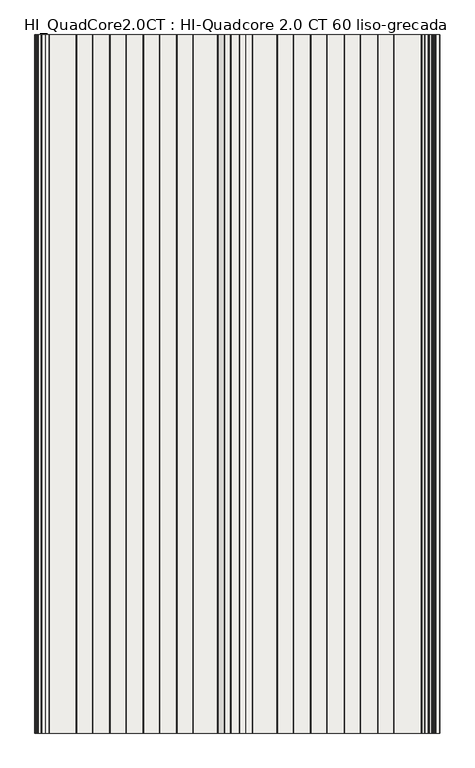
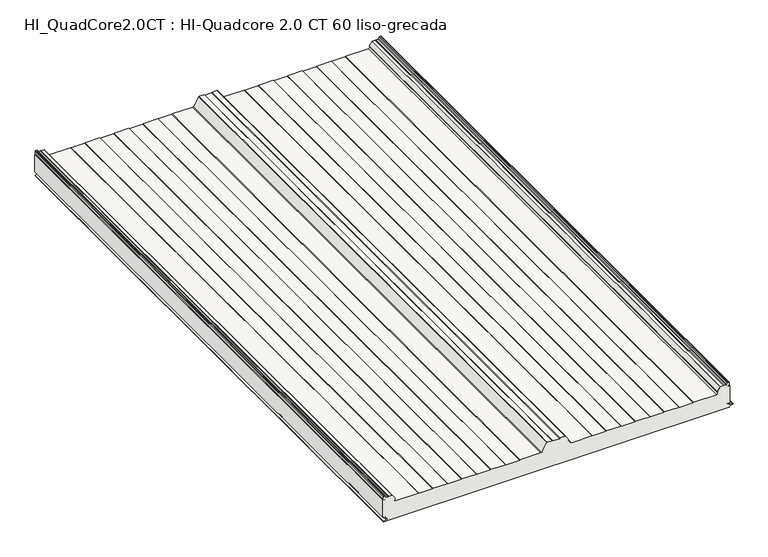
"""IFC4 building model written with IfcOpenShell, lengths in millimetres: slab geometry, HI_QuadCore2.0CT : HI-Quadcore 2.0 CT 60 liso-grecada."""

from ifc_helpers import new_model, si_unit, frame, origin, place, context, project, spatial, polyline, circle_curve, source, transform, mapped, element, save
from ifc_brep_helpers import plane_surface, cylinder_surface, revolved_surface, advanced_brep


def hi_quadcore2_0ct_hi_quadcore_2_0_ct_60_liso_grecada_84c94ab4(model_context):
    return source(origin(), model_context, "Body", "AdvancedBrep", [
        advanced_brep(
        [(5.1475465, 0.0, 75.7425833), (1.3824194, 0.0, 77.9163804), (0.0, 0.0, 77.9163804), (0.0, 0.0, 16.239302), (7.510215, 0.0, 16.239302), (7.510215, 0.0, 15.4391074), (3.6125693, 0.0, 15.4391074), (2.4319301, 0.0, 14.2584682), (3.4276302, 0.0, 13.0866965), (11.8278581, 0.0, 11.7547343), (11.7995989, 0.0, 4.4809044), (1.8467032, 0.0, 2.9844289), (2.0100062, 0.0, 0.8), (1147.9590685, 0.0, 0.8), (1149.3391392, 0.0, 2.1800708), (1152.5664905, 0.0, 5.8294074), (1160.7843221, 0.0, 6.8264698), (1160.7843299, 0.0, 9.4135286), (1150.8450446, 0.0, 10.6192254), (1147.8324398, 0.0, 14.0237344), (1147.2282701, 0.0, 15.44), (1142.7624398, 0.0, 15.44), (1142.7624398, 0.0, 16.239302), (1150.0, 0.0, 16.239302), (1150.0, 0.0, 77.9163804), (1148.8824194, 0.0, 77.9163804), (1145.1172924, 0.0, 75.7425833), (1144.7172924, 0.0, 76.4354036), (1148.5824194, 0.0, 78.6669358), (1148.5824194, 0.0, 88.1), (1147.4824194, 0.0, 89.2), (1143.8888221, 0.0, 89.2), (1142.8725546, 0.0, 88.5209518), (1141.0157992, 0.0, 84.0383476), (1138.8631598, 0.0, 82.6), (1132.1371875, 0.0, 82.6), (1130.4324194, 0.0, 81.8110374), (1128.7276514, 0.0, 82.6), (1119.4004541, 0.0, 82.6), (1118.4939153, 0.0, 82.1230469), (1109.1558806, 0.0, 68.5361221), (1109.356723, 0.0, 67.0692788), (1110.3070878, 0.0, 66.2744554), (1107.4852773, 0.0, 59.2), (1031.3816122, 0.0, 59.2), (1029.6495614, 0.0, 58.2), (984.6152775, 0.0, 58.2), (982.8832267, 0.0, 59.2), (935.3816122, 0.0, 59.2), (933.6495614, 0.0, 58.2), (888.6152775, 0.0, 58.2), (886.8832267, 0.0, 59.2), (839.3816122, 0.0, 59.2), (837.6495614, 0.0, 58.2), (792.6152775, 0.0, 58.2), (790.8832267, 0.0, 59.2), (743.3816122, 0.0, 59.2), (741.6495614, 0.0, 58.2), (696.6152775, 0.0, 58.2), (694.8832267, 0.0, 59.2), (625.9029123, 0.0, 59.2), (623.9344839, 0.0, 60.2833287), (605.9445057, 0.0, 88.6885573), (605.0152048, 0.0, 89.2), (588.8816122, 0.0, 89.2), (586.283536, 0.0, 87.7), (563.9813029, 0.0, 87.7), (561.3832267, 0.0, 89.2), (545.2496341, 0.0, 89.2), (544.3203331, 0.0, 88.6885573), (526.330355, 0.0, 60.2833287), (524.3619266, 0.0, 59.2), (455.3816122, 0.0, 59.2), (453.6495614, 0.0, 58.2), (408.6152775, 0.0, 58.2), (406.8832267, 0.0, 59.2), (359.3816122, 0.0, 59.2), (357.6495614, 0.0, 58.2), (312.6152775, 0.0, 58.2), (310.8832267, 0.0, 59.2), (263.3816122, 0.0, 59.2), (261.6495614, 0.0, 58.2), (216.6152775, 0.0, 58.2), (214.8832267, 0.0, 59.2), (167.3816122, 0.0, 59.2), (165.6495614, 0.0, 58.2), (120.6152775, 0.0, 58.2), (118.8832267, 0.0, 59.2), (42.7795617, 0.0, 59.2), (39.9577511, 0.0, 66.2744555), (40.9081159, 0.0, 67.0692788), (41.1089583, 0.0, 68.5361221), (31.7709236, 0.0, 82.1230469), (30.8643848, 0.0, 82.6), (21.5371875, 0.0, 82.6), (19.8324194, 0.0, 81.8110374), (18.1276514, 0.0, 82.6), (11.4016791, 0.0, 82.6), (9.2490397, 0.0, 84.0383476), (7.3922843, 0.0, 88.5209518), (6.3760168, 0.0, 89.2), (2.7824194, 0.0, 89.2), (1.6824194, 0.0, 88.1), (1.6824194, 0.0, 78.6669358), (5.5475465, 0.0, 76.4354036), (5.1475465, 2000.0, 75.7425833), (5.5475465, 2000.0, 76.4354036), (1.6824194, 2000.0, 78.6669358), (1.6824194, 2000.0, 88.1), (2.7824194, 2000.0, 89.2), (6.3760168, 2000.0, 89.2), (7.3922843, 2000.0, 88.5209518), (9.2490397, 2000.0, 84.0383476), (11.4016791, 2000.0, 82.6), (18.1276514, 2000.0, 82.6), (19.8324194, 2000.0, 81.8110374), (21.5371875, 2000.0, 82.6), (30.8643848, 2000.0, 82.6), (31.7709236, 2000.0, 82.1230469), (41.1089583, 2000.0, 68.5361221), (40.9081159, 2000.0, 67.0692788), (39.9577511, 2000.0, 66.2744555), (42.7795617, 2000.0, 59.2), (118.8832267, 2000.0, 59.2), (120.6152775, 2000.0, 58.2), (165.6495614, 2000.0, 58.2), (167.3816122, 2000.0, 59.2), (214.8832267, 2000.0, 59.2), (216.6152775, 2000.0, 58.2), (261.6495614, 2000.0, 58.2), (263.3816122, 2000.0, 59.2), (310.8832267, 2000.0, 59.2), (312.6152775, 2000.0, 58.2), (357.6495614, 2000.0, 58.2), (359.3816122, 2000.0, 59.2), (406.8832267, 2000.0, 59.2), (408.6152775, 2000.0, 58.2), (453.6495614, 2000.0, 58.2), (455.3816122, 2000.0, 59.2), (524.3619266, 2000.0, 59.2), (526.330355, 2000.0, 60.2833287), (544.3203331, 2000.0, 88.6885573), (545.2496341, 2000.0, 89.2), (561.3832267, 2000.0, 89.2), (563.9813029, 2000.0, 87.7), (586.283536, 2000.0, 87.7), (588.8816122, 2000.0, 89.2), (605.0152048, 2000.0, 89.2), (605.9445057, 2000.0, 88.6885573), (623.9344839, 2000.0, 60.2833287), (625.9029123, 2000.0, 59.2), (694.8832267, 2000.0, 59.2), (696.6152775, 2000.0, 58.2), (741.6495614, 2000.0, 58.2), (743.3816122, 2000.0, 59.2), (790.8832267, 2000.0, 59.2), (792.6152775, 2000.0, 58.2), (837.6495614, 2000.0, 58.2), (839.3816122, 2000.0, 59.2), (886.8832267, 2000.0, 59.2), (888.6152775, 2000.0, 58.2), (933.6495614, 2000.0, 58.2), (935.3816122, 2000.0, 59.2), (982.8832267, 2000.0, 59.2), (984.6152775, 2000.0, 58.2), (1029.6495614, 2000.0, 58.2), (1031.3816122, 2000.0, 59.2), (1107.4852773, 2000.0, 59.2), (1110.3070878, 2000.0, 66.2744554), (1109.356723, 2000.0, 67.0692788), (1109.1558806, 2000.0, 68.5361221), (1118.4939153, 2000.0, 82.1230469), (1119.4004541, 2000.0, 82.6), (1128.7276514, 2000.0, 82.6), (1130.4324194, 2000.0, 81.8110374), (1132.1371875, 2000.0, 82.6), (1138.8631598, 2000.0, 82.6), (1141.0157992, 2000.0, 84.0383476), (1142.8725546, 2000.0, 88.5209518), (1143.8888221, 2000.0, 89.2), (1147.4824194, 2000.0, 89.2), (1148.5824194, 2000.0, 88.1), (1148.5824194, 2000.0, 78.6669358), (1144.7172924, 2000.0, 76.4354036), (1145.1172924, 2000.0, 75.7425833), (1148.8824194, 2000.0, 77.9163804), (1150.0, 2000.0, 77.9163804), (1150.0, 2000.0, 16.239302), (1142.7624398, 2000.0, 16.239302), (1142.7624398, 2000.0, 15.44), (1147.2282701, 2000.0, 15.44), (1147.8324398, 2000.0, 14.0237344), (1150.8450446, 2000.0, 10.6192254), (1160.7843299, 2000.0, 9.4135286), (1160.7843221, 2000.0, 6.8264698), (1152.5664905, 2000.0, 5.8294074), (1149.3391392, 2000.0, 2.1800708), (1147.9590685, 2000.0, 0.8), (2.0100062, 2000.0, 0.8), (1.8467032, 2000.0, 2.9844289), (11.7995989, 2000.0, 4.4809044), (11.8278581, 2000.0, 11.7547343), (3.4273037, 2000.0, 13.0846342), (2.4319301, 2000.0, 14.2584682), (3.6125693, 2000.0, 15.4391074), (7.510215, 2000.0, 15.4391074), (7.510215, 2000.0, 16.239302), (0.0, 2000.0, 16.239302), (0.0, 2000.0, 77.9163804), (1.3824194, 2000.0, 77.9163804)],
        [
            (0, 1),
            (1, 2),
            (2, 3),
            (3, 4),
            (4, 5),
            (5, 6),
            (6, 7, circle_curve(frame((3.6125693, 0.0, 14.2584682), z_axis=(0.0, -1.0, 0.0), x_axis=(1.0, 0.0, 0.0)), 1.1806391)),
            (7, 8, circle_curve(frame((3.6121809, 0.0, 14.2524448), z_axis=(0.0, -1.0, 0.0), x_axis=(1.0, 0.0, 0.0)), 1.1802661)),
            (8, 9),
            (9, 10, circle_curve(frame((11.2524398, 0.0, 8.12), z_axis=(0.0, 1.0, 0.0), x_axis=(1.0, 0.0, 0.0)), 3.68)),
            (10, 11),
            (11, 12, circle_curve(frame((2.0100062, 0.0, 1.8983185), z_axis=(0.0, -1.0, 0.0), x_axis=(1.0, 0.0, 0.0)), 1.0983185)),
            (12, 13),
            (13, 14, circle_curve(frame((1147.9590685, 0.0, 2.1800708), z_axis=(0.0, -1.0, 0.0), x_axis=(1.0, 0.0, 0.0)), 1.3800708)),
            (14, 15, circle_curve(frame((1153.0160638, 0.0, 2.1800708), z_axis=(0.0, 1.0, 0.0), x_axis=(1.0, 0.0, 0.0)), 3.6769246)),
            (15, 16),
            (16, 17, circle_curve(frame((1160.5224398, 0.0, 8.12), z_axis=(0.0, -1.0, 0.0), x_axis=(1.0, 0.0, 0.0)), 1.3197737)),
            (17, 18),
            (18, 19, circle_curve(frame((1151.2624398, 0.0, 14.0237344), z_axis=(0.0, 1.0, 0.0), x_axis=(1.0, 0.0, 0.0)), 3.43)),
            (19, 20, circle_curve(frame((1145.8703839, 0.0, 14.0237344), z_axis=(0.0, -1.0, 0.0), x_axis=(1.0, 0.0, 0.0)), 1.9620559)),
            (20, 21),
            (21, 22),
            (22, 23),
            (23, 24),
            (24, 25),
            (25, 26),
            (26, 27),
            (27, 28),
            (28, 29),
            (29, 30, circle_curve(frame((1147.4824194, 0.0, 88.1), z_axis=(0.0, -1.0, 0.0), x_axis=(1.0, 0.0, 0.0)), 1.1)),
            (30, 31),
            (31, 32, circle_curve(frame((1143.8888221, 0.0, 88.1), z_axis=(0.0, -1.0, 0.0), x_axis=(1.0, 0.0, 0.0)), 1.1)),
            (32, 33),
            (33, 34, circle_curve(frame((1138.8631598, 0.0, 84.93), z_axis=(0.0, 1.0, 0.0), x_axis=(1.0, 0.0, 0.0)), 2.33)),
            (34, 35),
            (35, 36),
            (36, 37),
            (37, 38),
            (38, 39, circle_curve(frame((1119.4004541, 0.0, 81.5), z_axis=(0.0, -1.0, 0.0), x_axis=(1.0, 0.0, 0.0)), 1.1)),
            (39, 40),
            (40, 41, circle_curve(frame((1110.0624194, 0.0, 67.9130753), z_axis=(0.0, -1.0, 0.0), x_axis=(1.0, 0.0, 0.0)), 1.1)),
            (41, 42),
            (42, 43, circle_curve(frame((1107.4852773, 0.0, 63.3), z_axis=(0.0, 1.0, 0.0), x_axis=(1.0, 0.0, 0.0)), 4.1)),
            (43, 44),
            (44, 45),
            (45, 46),
            (46, 47),
            (47, 48),
            (48, 49),
            (49, 50),
            (50, 51),
            (51, 52),
            (52, 53),
            (53, 54),
            (54, 55),
            (55, 56),
            (56, 57),
            (57, 58),
            (58, 59),
            (59, 60),
            (60, 61, circle_curve(frame((625.9029123, 0.0, 61.53), z_axis=(0.0, 1.0, 0.0), x_axis=(1.0, 0.0, 0.0)), 2.33)),
            (61, 62),
            (62, 63, circle_curve(frame((605.0152048, 0.0, 88.1), z_axis=(0.0, -1.0, 0.0), x_axis=(1.0, 0.0, 0.0)), 1.1)),
            (63, 64),
            (64, 65),
            (65, 66),
            (66, 67),
            (67, 68),
            (68, 69, circle_curve(frame((545.2496341, 0.0, 88.1), z_axis=(0.0, -1.0, 0.0), x_axis=(1.0, 0.0, 0.0)), 1.1)),
            (69, 70),
            (70, 71, circle_curve(frame((524.3619266, 0.0, 61.53), z_axis=(0.0, 1.0, 0.0), x_axis=(1.0, 0.0, 0.0)), 2.33)),
            (71, 72),
            (72, 73),
            (73, 74),
            (74, 75),
            (75, 76),
            (76, 77),
            (77, 78),
            (78, 79),
            (79, 80),
            (80, 81),
            (81, 82),
            (82, 83),
            (83, 84),
            (84, 85),
            (85, 86),
            (86, 87),
            (87, 88),
            (88, 89, circle_curve(frame((42.7795617, 0.0, 63.3), z_axis=(0.0, 1.0, 0.0), x_axis=(1.0, 0.0, 0.0)), 4.1)),
            (89, 90),
            (90, 91, circle_curve(frame((40.2024195, 0.0, 67.9130752), z_axis=(0.0, -1.0, 0.0), x_axis=(1.0, 0.0, 0.0)), 1.1)),
            (91, 92),
            (92, 93, circle_curve(frame((30.8643848, 0.0, 81.5), z_axis=(0.0, -1.0, 0.0), x_axis=(1.0, 0.0, 0.0)), 1.1)),
            (93, 94),
            (94, 95),
            (95, 96),
            (96, 97),
            (97, 98, circle_curve(frame((11.4016791, 0.0, 84.93), z_axis=(0.0, 1.0, 0.0), x_axis=(1.0, 0.0, 0.0)), 2.33)),
            (98, 99),
            (99, 100, circle_curve(frame((6.3760168, 0.0, 88.1), z_axis=(0.0, -1.0, 0.0), x_axis=(1.0, 0.0, 0.0)), 1.1)),
            (100, 101),
            (101, 102, circle_curve(frame((2.7824194, 0.0, 88.1), z_axis=(0.0, -1.0, 0.0), x_axis=(1.0, 0.0, 0.0)), 1.1)),
            (102, 103),
            (103, 104),
            (104, 0),
            (105, 106),
            (106, 107),
            (107, 108),
            (108, 109, circle_curve(frame((2.7824194, 2000.0, 88.1), z_axis=(0.0, 1.0, 0.0), x_axis=(1.0, 0.0, 0.0)), 1.1)),
            (109, 110),
            (110, 111, circle_curve(frame((6.3760168, 2000.0, 88.1), z_axis=(0.0, 1.0, 0.0), x_axis=(1.0, 0.0, 0.0)), 1.1)),
            (111, 112),
            (112, 113, circle_curve(frame((11.4016791, 2000.0, 84.93), z_axis=(0.0, -1.0, 0.0), x_axis=(1.0, 0.0, 0.0)), 2.33)),
            (113, 114),
            (114, 115),
            (115, 116),
            (116, 117),
            (117, 118, circle_curve(frame((30.8643848, 2000.0, 81.5), z_axis=(0.0, 1.0, 0.0), x_axis=(1.0, 0.0, 0.0)), 1.1)),
            (118, 119),
            (119, 120, circle_curve(frame((40.2024195, 2000.0, 67.9130752), z_axis=(0.0, 1.0, 0.0), x_axis=(1.0, 0.0, 0.0)), 1.1)),
            (120, 121),
            (121, 122, circle_curve(frame((42.7795617, 2000.0, 63.3), z_axis=(0.0, -1.0, 0.0), x_axis=(1.0, 0.0, 0.0)), 4.1)),
            (122, 123),
            (123, 124),
            (124, 125),
            (125, 126),
            (126, 127),
            (127, 128),
            (128, 129),
            (129, 130),
            (130, 131),
            (131, 132),
            (132, 133),
            (133, 134),
            (134, 135),
            (135, 136),
            (136, 137),
            (137, 138),
            (138, 139),
            (139, 140, circle_curve(frame((524.3619266, 2000.0, 61.53), z_axis=(0.0, -1.0, 0.0), x_axis=(1.0, 0.0, 0.0)), 2.33)),
            (140, 141),
            (141, 142, circle_curve(frame((545.2496341, 2000.0, 88.1), z_axis=(0.0, 1.0, 0.0), x_axis=(1.0, 0.0, 0.0)), 1.1)),
            (142, 143),
            (143, 144),
            (144, 145),
            (145, 146),
            (146, 147),
            (147, 148, circle_curve(frame((605.0152048, 2000.0, 88.1), z_axis=(0.0, 1.0, 0.0), x_axis=(1.0, 0.0, 0.0)), 1.1)),
            (148, 149),
            (149, 150, circle_curve(frame((625.9029123, 2000.0, 61.53), z_axis=(0.0, -1.0, 0.0), x_axis=(1.0, 0.0, 0.0)), 2.33)),
            (150, 151),
            (151, 152),
            (152, 153),
            (153, 154),
            (154, 155),
            (155, 156),
            (156, 157),
            (157, 158),
            (158, 159),
            (159, 160),
            (160, 161),
            (161, 162),
            (162, 163),
            (163, 164),
            (164, 165),
            (165, 166),
            (166, 167),
            (167, 168, circle_curve(frame((1107.4852773, 2000.0, 63.3), z_axis=(0.0, -1.0, 0.0), x_axis=(1.0, 0.0, 0.0)), 4.1)),
            (168, 169),
            (169, 170, circle_curve(frame((1110.0624194, 2000.0, 67.9130753), z_axis=(0.0, 1.0, 0.0), x_axis=(1.0, 0.0, 0.0)), 1.1)),
            (170, 171),
            (171, 172, circle_curve(frame((1119.4004541, 2000.0, 81.5), z_axis=(0.0, 1.0, 0.0), x_axis=(1.0, 0.0, 0.0)), 1.1)),
            (172, 173),
            (173, 174),
            (174, 175),
            (175, 176),
            (176, 177, circle_curve(frame((1138.8631598, 2000.0, 84.93), z_axis=(0.0, -1.0, 0.0), x_axis=(1.0, 0.0, 0.0)), 2.33)),
            (177, 178),
            (178, 179, circle_curve(frame((1143.8888221, 2000.0, 88.1), z_axis=(0.0, 1.0, 0.0), x_axis=(1.0, 0.0, 0.0)), 1.1)),
            (179, 180),
            (180, 181, circle_curve(frame((1147.4824194, 2000.0, 88.1), z_axis=(0.0, 1.0, 0.0), x_axis=(1.0, 0.0, 0.0)), 1.1)),
            (181, 182),
            (182, 183),
            (183, 184),
            (184, 185),
            (185, 186),
            (186, 187),
            (187, 188),
            (188, 189),
            (189, 190),
            (190, 191, circle_curve(frame((1145.8703839, 2000.0, 14.0237344), z_axis=(0.0, 1.0, 0.0), x_axis=(1.0, 0.0, 0.0)), 1.9620559)),
            (191, 192, circle_curve(frame((1151.2624398, 2000.0, 14.0237344), z_axis=(0.0, -1.0, 0.0), x_axis=(1.0, 0.0, 0.0)), 3.43)),
            (192, 193),
            (193, 194, circle_curve(frame((1160.5224398, 2000.0, 8.12), z_axis=(0.0, 1.0, 0.0), x_axis=(1.0, 0.0, 0.0)), 1.3197737)),
            (194, 195),
            (195, 196, circle_curve(frame((1153.0160638, 2000.0, 2.1800708), z_axis=(0.0, -1.0, 0.0), x_axis=(1.0, 0.0, 0.0)), 3.6769246)),
            (196, 197, circle_curve(frame((1147.9590685, 2000.0, 2.1800708), z_axis=(0.0, 1.0, 0.0), x_axis=(1.0, 0.0, 0.0)), 1.3800708)),
            (197, 198),
            (198, 199, circle_curve(frame((2.0100062, 2000.0, 1.8983185), z_axis=(0.0, 1.0, 0.0), x_axis=(1.0, 0.0, 0.0)), 1.0983185)),
            (199, 200),
            (200, 201, circle_curve(frame((11.2524398, 2000.0, 8.12), z_axis=(0.0, -1.0, 0.0), x_axis=(1.0, 0.0, 0.0)), 3.68)),
            (201, 202),
            (202, 203, circle_curve(frame((3.6121809, 2000.0, 14.2524448), z_axis=(0.0, 1.0, 0.0), x_axis=(1.0, 0.0, 0.0)), 1.1802661)),
            (203, 204, circle_curve(frame((3.6125693, 2000.0, 14.2584682), z_axis=(0.0, 1.0, 0.0), x_axis=(1.0, 0.0, 0.0)), 1.1806391)),
            (204, 205),
            (205, 206),
            (206, 207),
            (207, 208),
            (208, 209),
            (209, 105),
            (0, 105),
            (209, 1),
            (208, 2),
            (207, 3),
            (186, 24),
            (23, 187),
            (185, 25),
            (184, 26),
            (183, 27),
            (182, 28),
            (181, 29),
            (180, 30),
            (179, 31),
            (178, 32),
            (177, 33),
            (176, 34),
            (175, 35),
            (174, 36),
            (173, 37),
            (172, 38),
            (171, 39),
            (170, 40),
            (169, 41),
            (168, 42),
            (167, 43),
            (166, 44),
            (165, 45),
            (164, 46),
            (163, 47),
            (162, 48),
            (161, 49),
            (160, 50),
            (159, 51),
            (158, 52),
            (157, 53),
            (156, 54),
            (155, 55),
            (154, 56),
            (153, 57),
            (152, 58),
            (151, 59),
            (150, 60),
            (149, 61),
            (148, 62),
            (147, 63),
            (146, 64),
            (145, 65),
            (144, 66),
            (143, 67),
            (142, 68),
            (141, 69),
            (140, 70),
            (139, 71),
            (138, 72),
            (137, 73),
            (136, 74),
            (135, 75),
            (134, 76),
            (133, 77),
            (132, 78),
            (131, 79),
            (130, 80),
            (129, 81),
            (128, 82),
            (127, 83),
            (126, 84),
            (125, 85),
            (124, 86),
            (123, 87),
            (122, 88),
            (121, 89),
            (120, 90),
            (119, 91),
            (118, 92),
            (117, 93),
            (116, 94),
            (115, 95),
            (114, 96),
            (113, 97),
            (112, 98),
            (111, 99),
            (110, 100),
            (109, 101),
            (108, 102),
            (107, 103),
            (106, 104),
            (22, 188),
            (206, 4),
            (205, 5),
            (204, 6),
            (203, 7),
            (202, 8),
            (201, 9),
            (200, 10),
            (199, 11),
            (198, 12),
            (197, 13),
            (196, 14),
            (195, 15),
            (194, 16),
            (193, 17),
            (192, 18),
            (191, 19),
            (190, 20),
            (189, 21),
        ],
        [
            plane_surface(frame((1.3824194, 0.0, 77.9163804), z_axis=(0.0, -1.0, 0.0), x_axis=(-0.866025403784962, 0.0, 0.4999999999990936))),
            plane_surface(frame((1.3824194, 2000.0, 77.9163804), z_axis=(0.0, 1.0, 0.0), x_axis=(0.866025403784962, 0.0, -0.4999999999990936))),
            plane_surface(frame((5.1475465, 0.0, 75.7425833), z_axis=(0.4999999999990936, 0.0, 0.866025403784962), x_axis=(0.0, 1.0, 0.0))),
            plane_surface(frame((1.3824194, 0.0, 77.9163804), z_axis=(0.0, 0.0, 1.0), x_axis=(0.0, 1.0, 0.0))),
            plane_surface(frame((0.0, 0.0, 77.9163804), z_axis=(-1.0, 0.0, 0.0), x_axis=(0.0, 1.0, 0.0))),
            plane_surface(frame((1150.0, 0.0, 50.0), z_axis=(1.0, 0.0, 0.0), x_axis=(0.0, 1.0, 0.0))),
            plane_surface(frame((1150.0, 0.0, 77.9163804), z_axis=(0.0, 0.0, 1.0), x_axis=(0.0, 1.0, 0.0))),
            plane_surface(frame((1148.8824194, 0.0, 77.9163804), z_axis=(-0.4999999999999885, 0.0, 0.8660254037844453), x_axis=(0.0, 1.0, 0.0))),
            plane_surface(frame((1145.1172924, 0.0, 75.7425833), z_axis=(0.8660254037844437, 0.0, 0.49999999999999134), x_axis=(0.0, 1.0, 0.0))),
            plane_surface(frame((1144.7172924, 0.0, 76.4354036), z_axis=(0.4999999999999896, 0.0, -0.8660254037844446), x_axis=(0.0, 1.0, 0.0))),
            plane_surface(frame((1148.5824194, 0.0, 78.6669358), z_axis=(1.0, 0.0, 0.0), x_axis=(0.0, 1.0, 0.0))),
            cylinder_surface(frame((1147.4824194, 2000.0, 88.1), z_axis=(0.0, -1.0, 0.0), x_axis=(1.0, 0.0, 0.0)), 1.1),
            plane_surface(frame((1147.4824194, 0.0, 89.2), z_axis=(0.0, 0.0, 1.0), x_axis=(0.0, 1.0, 0.0))),
            cylinder_surface(frame((1143.8888221, 2000.0, 88.1), z_axis=(0.0, -1.0, 0.0), x_axis=(1.0, 0.0, 0.0)), 1.1),
            plane_surface(frame((1142.8725546, 0.0, 88.5209518), z_axis=(-0.9238795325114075, 0.0, 0.3826834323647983), x_axis=(0.0, 1.0, 0.0))),
            revolved_surface(polyline([(1141.1931597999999, 2000.0, 84.93), (1141.1931597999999, 0.0, 84.93)]), (1138.8631598, 2000.0, 84.93), (0.0, 1.0, 0.0)),
            plane_surface(frame((1138.8631598, 0.0, 82.6), z_axis=(0.0, 0.0, 1.0), x_axis=(0.0, 1.0, 0.0))),
            plane_surface(frame((1132.1371875, 0.0, 82.6), z_axis=(-0.4199999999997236, 0.0, 0.9075241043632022), x_axis=(0.0, 1.0, 0.0))),
            plane_surface(frame((1130.4324194, 0.0, 81.8110374), z_axis=(0.42000000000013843, 0.0, 0.9075241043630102), x_axis=(0.0, 1.0, 0.0))),
            plane_surface(frame((1128.7276514, 0.0, 82.6), z_axis=(0.0, 0.0, 1.0), x_axis=(0.0, 1.0, 0.0))),
            cylinder_surface(frame((1119.4004541, 2000.0, 81.5), z_axis=(0.0, -1.0, 0.0), x_axis=(1.0, 0.0, 0.0)), 1.1),
            plane_surface(frame((1118.4939153, 0.0, 82.1230469), z_axis=(-0.824126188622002, 0.0, 0.5664062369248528), x_axis=(0.0, 1.0, 0.0))),
            cylinder_surface(frame((1110.0624194, 2000.0, 67.9130753), z_axis=(0.0, -1.0, 0.0), x_axis=(1.0, 0.0, 0.0)), 1.1),
            plane_surface(frame((1109.356723, 0.0, 67.0692788), z_axis=(-0.6415422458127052, 0.0, -0.7670877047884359), x_axis=(0.0, 1.0, 0.0))),
            revolved_surface(polyline([(1111.5852773, 2000.0, 63.3), (1111.5852773, 0.0, 63.3)]), (1107.4852773, 2000.0, 63.3), (0.0, 1.0, 0.0)),
            plane_surface(frame((1107.4852773, 0.0, 59.2), z_axis=(0.0, 0.0, 1.0), x_axis=(0.0, 1.0, 0.0))),
            plane_surface(frame((1031.3816122, 0.0, 59.2), z_axis=(-0.4999999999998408, 0.0, 0.8660254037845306), x_axis=(0.0, 1.0, 0.0))),
            plane_surface(frame((1029.6495614, 0.0, 58.2), z_axis=(0.0, 0.0, 1.0), x_axis=(0.0, 1.0, 0.0))),
            plane_surface(frame((984.6152775, 0.0, 58.2), z_axis=(0.4999999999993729, 0.0, 0.8660254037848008), x_axis=(0.0, 1.0, 0.0))),
            plane_surface(frame((982.8832267, 0.0, 59.2), z_axis=(0.0, 0.0, 1.0), x_axis=(0.0, 1.0, 0.0))),
            plane_surface(frame((935.3816122, 0.0, 59.2), z_axis=(-0.49999999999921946, 0.0, 0.8660254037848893), x_axis=(0.0, 1.0, 0.0))),
            plane_surface(frame((933.6495614, 0.0, 58.2), z_axis=(0.0, 0.0, 1.0), x_axis=(0.0, 1.0, 0.0))),
            plane_surface(frame((888.6152775, 0.0, 58.2), z_axis=(0.4999999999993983, 0.0, 0.8660254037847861), x_axis=(0.0, 1.0, 0.0))),
            plane_surface(frame((886.8832267, 0.0, 59.2), z_axis=(0.0, 0.0, 1.0), x_axis=(0.0, 1.0, 0.0))),
            plane_surface(frame((839.3816122, 0.0, 59.2), z_axis=(-0.49999999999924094, 0.0, 0.866025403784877), x_axis=(0.0, 1.0, 0.0))),
            plane_surface(frame((837.6495614, 0.0, 58.2), z_axis=(0.0, 0.0, 1.0), x_axis=(0.0, 1.0, 0.0))),
            plane_surface(frame((792.6152775, 0.0, 58.2), z_axis=(0.49999999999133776, 0.0, 0.8660254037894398), x_axis=(0.0, 1.0, 0.0))),
            plane_surface(frame((790.8832267, 0.0, 59.2), z_axis=(0.0, 0.0, 1.0), x_axis=(0.0, 1.0, 0.0))),
            plane_surface(frame((743.3816122, 0.0, 59.2), z_axis=(-0.500000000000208, 0.0, 0.8660254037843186), x_axis=(0.0, 1.0, 0.0))),
            plane_surface(frame((741.6495614, 0.0, 58.2), z_axis=(0.0, 0.0, 1.0), x_axis=(0.0, 1.0, 0.0))),
            plane_surface(frame((696.6152775, 0.0, 58.2), z_axis=(0.5000000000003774, 0.0, 0.8660254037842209), x_axis=(0.0, 1.0, 0.0))),
            plane_surface(frame((694.8832267, 0.0, 59.2), z_axis=(0.0, 0.0, 1.0), x_axis=(0.0, 1.0, 0.0))),
            revolved_surface(polyline([(628.2329123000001, 2000.0, 61.53), (628.2329123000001, 0.0, 61.53)]), (625.9029123, 2000.0, 61.53), (0.0, 1.0, 0.0)),
            plane_surface(frame((623.9344839, 0.0, 60.2833287), z_axis=(0.8448190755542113, 0.0, 0.535052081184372), x_axis=(0.0, 1.0, 0.0))),
            cylinder_surface(frame((605.0152048, 2000.0, 88.1), z_axis=(0.0, -1.0, 0.0), x_axis=(1.0, 0.0, 0.0)), 1.1),
            plane_surface(frame((605.0152048, 0.0, 89.2), z_axis=(0.0, 0.0, 1.0), x_axis=(0.0, 1.0, 0.0))),
            plane_surface(frame((588.8816122, 0.0, 89.2), z_axis=(-0.4999999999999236, 0.0, 0.8660254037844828), x_axis=(0.0, 1.0, 0.0))),
            plane_surface(frame((586.283536, 0.0, 87.7), z_axis=(0.0, 0.0, 1.0), x_axis=(0.0, 1.0, 0.0))),
            plane_surface(frame((563.9813029, 0.0, 87.7), z_axis=(0.5000000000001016, 0.0, 0.86602540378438), x_axis=(0.0, 1.0, 0.0))),
            plane_surface(frame((561.3832267, 0.0, 89.2), z_axis=(0.0, 0.0, 1.0), x_axis=(0.0, 1.0, 0.0))),
            cylinder_surface(frame((545.2496341, 2000.0, 88.1), z_axis=(0.0, -1.0, 0.0), x_axis=(1.0, 0.0, 0.0)), 1.1),
            plane_surface(frame((544.3203331, 0.0, 88.6885573), z_axis=(-0.8448190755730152, 0.0, 0.5350520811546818), x_axis=(0.0, 1.0, 0.0))),
            revolved_surface(polyline([(526.6919266, 2000.0, 61.53), (526.6919266, 0.0, 61.53)]), (524.3619266, 2000.0, 61.53), (0.0, 1.0, 0.0)),
            plane_surface(frame((524.3619266, 0.0, 59.2), z_axis=(0.0, 0.0, 1.0), x_axis=(0.0, 1.0, 0.0))),
            plane_surface(frame((455.3816122, 0.0, 59.2), z_axis=(-0.5000000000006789, 0.0, 0.8660254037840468), x_axis=(0.0, 1.0, 0.0))),
            plane_surface(frame((453.6495614, 0.0, 58.2), z_axis=(0.0, 0.0, 1.0), x_axis=(0.0, 1.0, 0.0))),
            plane_surface(frame((408.6152775, 0.0, 58.2), z_axis=(0.4999999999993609, 0.0, 0.8660254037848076), x_axis=(0.0, 1.0, 0.0))),
            plane_surface(frame((406.8832267, 0.0, 59.2), z_axis=(0.0, 0.0, 1.0), x_axis=(0.0, 1.0, 0.0))),
            plane_surface(frame((359.3816122, 0.0, 59.2), z_axis=(-0.5000000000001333, 0.0, 0.8660254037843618), x_axis=(0.0, 1.0, 0.0))),
            plane_surface(frame((357.6495614, 0.0, 58.2), z_axis=(0.0, 0.0, 1.0), x_axis=(0.0, 1.0, 0.0))),
            plane_surface(frame((312.6152775, 0.0, 58.2), z_axis=(0.499999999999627, 0.0, 0.8660254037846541), x_axis=(0.0, 1.0, 0.0))),
            plane_surface(frame((310.8832267, 0.0, 59.2), z_axis=(0.0, 0.0, 1.0), x_axis=(0.0, 1.0, 0.0))),
            plane_surface(frame((263.3816122, 0.0, 59.2), z_axis=(-0.4999999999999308, 0.0, 0.8660254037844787), x_axis=(0.0, 1.0, 0.0))),
            plane_surface(frame((261.6495614, 0.0, 58.2), z_axis=(0.0, 0.0, 1.0), x_axis=(0.0, 1.0, 0.0))),
            plane_surface(frame((216.6152775, 0.0, 58.2), z_axis=(0.5000000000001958, 0.0, 0.8660254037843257), x_axis=(0.0, 1.0, 0.0))),
            plane_surface(frame((214.8832267, 0.0, 59.2), z_axis=(0.0, 0.0, 1.0), x_axis=(0.0, 1.0, 0.0))),
            plane_surface(frame((167.3816122, 0.0, 59.2), z_axis=(-0.5000000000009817, 0.0, 0.8660254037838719), x_axis=(0.0, 1.0, 0.0))),
            plane_surface(frame((165.6495614, 0.0, 58.2), z_axis=(0.0, 0.0, 1.0), x_axis=(0.0, 1.0, 0.0))),
            plane_surface(frame((120.6152775, 0.0, 58.2), z_axis=(0.4999999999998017, 0.0, 0.8660254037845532), x_axis=(0.0, 1.0, 0.0))),
            plane_surface(frame((118.8832267, 0.0, 59.2), z_axis=(0.0, 0.0, 1.0), x_axis=(0.0, 1.0, 0.0))),
            revolved_surface(polyline([(46.879561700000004, 2000.0, 63.3), (46.879561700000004, 0.0, 63.3)]), (42.7795617, 2000.0, 63.3), (0.0, 1.0, 0.0)),
            plane_surface(frame((39.9577511, 0.0, 66.2744555), z_axis=(0.6415422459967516, 0.0, -0.7670877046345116), x_axis=(0.0, 1.0, 0.0))),
            cylinder_surface(frame((40.2024195, 2000.0, 67.9130752), z_axis=(0.0, -1.0, 0.0), x_axis=(1.0, 0.0, 0.0)), 1.1),
            plane_surface(frame((41.1089583, 0.0, 68.5361221), z_axis=(0.8241261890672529, 0.0, 0.5664062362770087), x_axis=(0.0, 1.0, 0.0))),
            cylinder_surface(frame((30.8643848, 2000.0, 81.5), z_axis=(0.0, -1.0, 0.0), x_axis=(1.0, 0.0, 0.0)), 1.1),
            plane_surface(frame((30.8643848, 0.0, 82.6), z_axis=(0.0, 0.0, 1.0), x_axis=(0.0, 1.0, 0.0))),
            plane_surface(frame((21.5371875, 0.0, 82.6), z_axis=(-0.41999999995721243, 0.0, 0.9075241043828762), x_axis=(0.0, 1.0, 0.0))),
            plane_surface(frame((19.8324194, 0.0, 81.8110374), z_axis=(0.4200000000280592, 0.0, 0.9075241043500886), x_axis=(0.0, 1.0, 0.0))),
            plane_surface(frame((18.1276514, 0.0, 82.6), z_axis=(0.0, 0.0, 1.0), x_axis=(0.0, 1.0, 0.0))),
            revolved_surface(polyline([(13.731679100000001, 2000.0, 84.93), (13.731679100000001, 0.0, 84.93)]), (11.4016791, 2000.0, 84.93), (0.0, 1.0, 0.0)),
            plane_surface(frame((9.2490397, 0.0, 84.0383476), z_axis=(0.923879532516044, 0.0, 0.38268343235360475), x_axis=(0.0, 1.0, 0.0))),
            cylinder_surface(frame((6.3760168, 2000.0, 88.1), z_axis=(0.0, -1.0, 0.0), x_axis=(1.0, 0.0, 0.0)), 1.1),
            plane_surface(frame((6.3760168, 0.0, 89.2), z_axis=(0.0, 0.0, 1.0), x_axis=(0.0, 1.0, 0.0))),
            cylinder_surface(frame((2.7824194, 2000.0, 88.1), z_axis=(0.0, -1.0, 0.0), x_axis=(1.0, 0.0, 0.0)), 1.1),
            plane_surface(frame((1.6824194, 0.0, 88.1), z_axis=(-1.0, 0.0, 0.0), x_axis=(0.0, 1.0, 0.0))),
            plane_surface(frame((1.6824194, 0.0, 78.6669358), z_axis=(-0.49999999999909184, 0.0, -0.866025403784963), x_axis=(0.0, 1.0, 0.0))),
            plane_surface(frame((5.5475465, 0.0, 76.4354036), z_axis=(-0.866025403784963, 0.0, 0.4999999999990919), x_axis=(0.0, 1.0, 0.0))),
            plane_surface(frame((0.0, 0.0, 16.239302), z_axis=(0.0, 0.0, -1.0), x_axis=(0.0, 1.0, 0.0))),
            plane_surface(frame((7.510215, 0.0, 16.239302), z_axis=(-1.0, 0.0, 0.0), x_axis=(0.0, 1.0, 0.0))),
            plane_surface(frame((7.510215, 0.0, 15.4391074), z_axis=(0.0, 0.0, 1.0), x_axis=(0.0, 1.0, 0.0))),
            cylinder_surface(frame((3.6125693, 2000.0, 14.2584682), z_axis=(0.0, -1.0, 0.0), x_axis=(1.0, 0.0, 0.0)), 1.1806391),
            cylinder_surface(frame((3.6121809, 2000.0, 14.2524448), z_axis=(0.0, -1.0, 0.0), x_axis=(1.0, 0.0, 0.0)), 1.1802661),
            plane_surface(frame((3.4273037, 0.0, 13.0846342), z_axis=(-0.1563636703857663, 0.0, -0.9876995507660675), x_axis=(0.0, 1.0, 0.0))),
            revolved_surface(polyline([(14.9324398, 2000.0, 8.12), (14.9324398, 0.0, 8.12)]), (11.2524398, 2000.0, 8.12), (0.0, 1.0, 0.0)),
            plane_surface(frame((11.7995989, 0.0, 4.4809044), z_axis=(-0.14868453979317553, 0.0, 0.9888846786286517), x_axis=(0.0, 1.0, 0.0))),
            cylinder_surface(frame((2.0100062, 2000.0, 1.8983185), z_axis=(0.0, -1.0, 0.0), x_axis=(1.0, 0.0, 0.0)), 1.0983185),
            plane_surface(frame((2.0100062, 0.0, 0.8), z_axis=(0.0, 0.0, -1.0), x_axis=(0.0, 1.0, 0.0))),
            cylinder_surface(frame((1147.9590685, 2000.0, 2.1800708), z_axis=(0.0, -1.0, 0.0), x_axis=(1.0, 0.0, 0.0)), 1.3800708),
            revolved_surface(polyline([(1156.6929883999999, 2000.0, 2.1800708), (1156.6929883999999, 0.0, 2.1800708)]), (1153.0160638, 2000.0, 2.1800708), (0.0, 1.0, 0.0)),
            plane_surface(frame((1152.5664905, 0.0, 5.8294074), z_axis=(0.12044584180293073, 0.0, -0.9927198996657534), x_axis=(0.0, 1.0, 0.0))),
            cylinder_surface(frame((1160.5224398, 2000.0, 8.12), z_axis=(0.0, -1.0, 0.0), x_axis=(1.0, 0.0, 0.0)), 1.3197737),
            plane_surface(frame((1160.7843299, 0.0, 9.4135286), z_axis=(0.12042339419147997, 0.0, 0.9927226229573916), x_axis=(0.0, 1.0, 0.0))),
            revolved_surface(polyline([(1154.6924398, 2000.0, 14.0237344), (1154.6924398, 0.0, 14.0237344)]), (1151.2624398, 2000.0, 14.0237344), (0.0, 1.0, 0.0)),
            cylinder_surface(frame((1145.8703839, 2000.0, 14.0237344), z_axis=(0.0, -1.0, 0.0), x_axis=(1.0, 0.0, 0.0)), 1.9620559),
            plane_surface(frame((1147.2282701, 0.0, 15.44), z_axis=(0.0, 0.0, 1.0), x_axis=(0.0, 1.0, 0.0))),
            plane_surface(frame((1142.7624398, 0.0, 15.44), z_axis=(1.0, 0.0, 0.0), x_axis=(0.0, 1.0, 0.0))),
        ],
        [
            (0, [[1, 2, 3, 4, 5, 6, 7, 8, 9, 10, 11, 12, 13, 14, 15, 16, 17, 18, 19, 20, 21, 22, 23, 24, 25, 26, 27, 28, 29, 30, 31, 32, 33, 34, 35, 36, 37, 38, 39, 40, 41, 42, 43, 44, 45, 46, 47, 48, 49, 50, 51, 52, 53, 54, 55, 56, 57, 58, 59, 60, 61, 62, 63, 64, 65, 66, 67, 68, 69, 70, 71, 72, 73, 74, 75, 76, 77, 78, 79, 80, 81, 82, 83, 84, 85, 86, 87, 88, 89, 90, 91, 92, 93, 94, 95, 96, 97, 98, 99, 100, 101, 102, 103, 104, 105]]),
            (1, [[106, 107, 108, 109, 110, 111, 112, 113, 114, 115, 116, 117, 118, 119, 120, 121, 122, 123, 124, 125, 126, 127, 128, 129, 130, 131, 132, 133, 134, 135, 136, 137, 138, 139, 140, 141, 142, 143, 144, 145, 146, 147, 148, 149, 150, 151, 152, 153, 154, 155, 156, 157, 158, 159, 160, 161, 162, 163, 164, 165, 166, 167, 168, 169, 170, 171, 172, 173, 174, 175, 176, 177, 178, 179, 180, 181, 182, 183, 184, 185, 186, 187, 188, 189, 190, 191, 192, 193, 194, 195, 196, 197, 198, 199, 200, 201, 202, 203, 204, 205, 206, 207, 208, 209, 210]]),
            (2, [[-1, 211, -210, 212]]),
            (3, [[-2, -212, -209, 213]]),
            (4, [[-213, -208, 214, -3]]),
            (5, [[215, -24, 216, -187]]),
            (6, [[-25, -215, -186, 217]]),
            (7, [[-26, -217, -185, 218]]),
            (8, [[-27, -218, -184, 219]]),
            (9, [[-28, -219, -183, 220]]),
            (10, [[-29, -220, -182, 221]]),
            (11, [[-30, -221, -181, 222]]),
            (12, [[-31, -222, -180, 223]]),
            (13, [[-32, -223, -179, 224]]),
            (14, [[-33, -224, -178, 225]]),
            (15, [[-34, -225, -177, 226]]),
            (16, [[-35, -226, -176, 227]]),
            (17, [[-36, -227, -175, 228]]),
            (18, [[-37, -228, -174, 229]]),
            (19, [[-38, -229, -173, 230]]),
            (20, [[-39, -230, -172, 231]]),
            (21, [[-40, -231, -171, 232]]),
            (22, [[-41, -232, -170, 233]]),
            (23, [[-42, -233, -169, 234]]),
            (24, [[-43, -234, -168, 235]]),
            (25, [[-44, -235, -167, 236]]),
            (26, [[-45, -236, -166, 237]]),
            (27, [[-46, -237, -165, 238]]),
            (28, [[-47, -238, -164, 239]]),
            (29, [[-48, -239, -163, 240]]),
            (30, [[-49, -240, -162, 241]]),
            (31, [[-50, -241, -161, 242]]),
            (32, [[-51, -242, -160, 243]]),
            (33, [[-52, -243, -159, 244]]),
            (34, [[-53, -244, -158, 245]]),
            (35, [[-54, -245, -157, 246]]),
            (36, [[-55, -246, -156, 247]]),
            (37, [[-56, -247, -155, 248]]),
            (38, [[-57, -248, -154, 249]]),
            (39, [[-58, -249, -153, 250]]),
            (40, [[-59, -250, -152, 251]]),
            (41, [[-60, -251, -151, 252]]),
            (42, [[-61, -252, -150, 253]]),
            (43, [[-62, -253, -149, 254]]),
            (44, [[-63, -254, -148, 255]]),
            (45, [[-64, -255, -147, 256]]),
            (46, [[-65, -256, -146, 257]]),
            (47, [[-66, -257, -145, 258]]),
            (48, [[-67, -258, -144, 259]]),
            (49, [[-68, -259, -143, 260]]),
            (50, [[-69, -260, -142, 261]]),
            (51, [[-70, -261, -141, 262]]),
            (52, [[-71, -262, -140, 263]]),
            (53, [[-72, -263, -139, 264]]),
            (54, [[-73, -264, -138, 265]]),
            (55, [[-74, -265, -137, 266]]),
            (56, [[-75, -266, -136, 267]]),
            (57, [[-76, -267, -135, 268]]),
            (58, [[-77, -268, -134, 269]]),
            (59, [[-78, -269, -133, 270]]),
            (60, [[-79, -270, -132, 271]]),
            (61, [[-80, -271, -131, 272]]),
            (62, [[-81, -272, -130, 273]]),
            (63, [[-82, -273, -129, 274]]),
            (64, [[-83, -274, -128, 275]]),
            (65, [[-84, -275, -127, 276]]),
            (66, [[-85, -276, -126, 277]]),
            (67, [[-86, -277, -125, 278]]),
            (68, [[-87, -278, -124, 279]]),
            (69, [[-88, -279, -123, 280]]),
            (70, [[-89, -280, -122, 281]]),
            (71, [[-90, -281, -121, 282]]),
            (72, [[-91, -282, -120, 283]]),
            (73, [[-92, -283, -119, 284]]),
            (74, [[-93, -284, -118, 285]]),
            (75, [[-94, -285, -117, 286]]),
            (76, [[-95, -286, -116, 287]]),
            (77, [[-96, -287, -115, 288]]),
            (78, [[-97, -288, -114, 289]]),
            (79, [[-98, -289, -113, 290]]),
            (80, [[-99, -290, -112, 291]]),
            (81, [[-100, -291, -111, 292]]),
            (82, [[-101, -292, -110, 293]]),
            (83, [[-102, -293, -109, 294]]),
            (84, [[-103, -294, -108, 295]]),
            (85, [[-104, -295, -107, 296]]),
            (86, [[-105, -296, -106, -211]]),
            (87, [[-216, -23, 297, -188]]),
            (87, [[-214, -207, 298, -4]]),
            (88, [[-5, -298, -206, 299]]),
            (89, [[-6, -299, -205, 300]]),
            (90, [[-7, -300, -204, 301]]),
            (91, [[-8, -301, -203, 302]]),
            (92, [[-9, -302, -202, 303]]),
            (93, [[-10, -303, -201, 304]]),
            (94, [[-11, -304, -200, 305]]),
            (95, [[-12, -305, -199, 306]]),
            (96, [[-13, -306, -198, 307]]),
            (97, [[-14, -307, -197, 308]]),
            (98, [[-15, -308, -196, 309]]),
            (99, [[-16, -309, -195, 310]]),
            (100, [[-17, -310, -194, 311]]),
            (101, [[-18, -311, -193, 312]]),
            (102, [[-19, -312, -192, 313]]),
            (103, [[-20, -313, -191, 314]]),
            (104, [[-21, -314, -190, 315]]),
            (105, [[-22, -315, -189, -297]]),
        ],
    ),
    ])


if __name__ == "__main__":
    model = new_model("IFC4")
    model_context = context("Model", 3, world=origin())
    ifc_project = project(units=[si_unit("LENGTHUNIT", "METRE", prefix="MILLI")], contexts=[model_context])
    site = spatial("IfcSite", under=ifc_project)
    building = spatial("IfcBuilding", under=site)
    placement = place(None, origin())
    hi_quadcore2_0ct_hi_quadcore_2_0_ct_60_liso_grecada_shape = hi_quadcore2_0ct_hi_quadcore_2_0_ct_60_liso_grecada_84c94ab4(model_context)
    element("IfcSlab", 1, ObjectType="HI_QuadCore2.0CT : HI-Quadcore 2.0 CT 60 liso-grecada", at=placement, inside=building, context=model_context, shape_type="MappedRepresentation", body=[
        mapped(hi_quadcore2_0ct_hi_quadcore_2_0_ct_60_liso_grecada_shape, transform((0.0, 0.0, 0.0), x_axis=(1.0, 0.0, 0.0), y_axis=(0.0, 1.0, 0.0), z_axis=(0.0, 0.0, 1.0))),
    ])
    save(model, "model.ifc")
